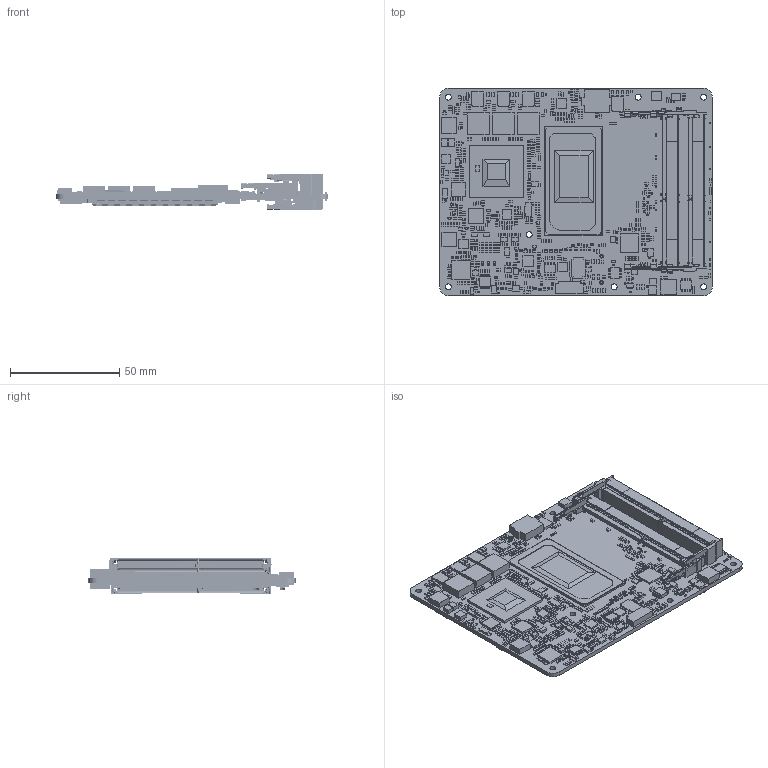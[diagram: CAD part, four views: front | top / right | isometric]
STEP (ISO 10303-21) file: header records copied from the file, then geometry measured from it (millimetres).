
FILE_DESCRIPTION((''),'2;1');
FILE_NAME('0-ESM-TGH_ASM','2022-06-16T14:17:55',('kobe_chang'),(''),'CREO PARAMETRIC BY PTC INC, 2018300','CREO PARAMETRIC BY PTC INC, 2018300','');
FILE_SCHEMA(('CONFIG_CONTROL_DESIGN','GEOMETRIC_VALIDATION_PROPERTIES_MIM'));
Products named in the file (82): ESM-TGH-PCB; E16712B0201H; E16A37D0414H; E16A37D041DH; E16A37D0404H; K10500_REV01_TGL-H_8C-GT1; K44490_R01; E1212201510H; E1212204715H; E121220102LH; E123133272AH; E1231302767H; E118X633760H; E118XX33780H; E14S4751702H; E1315342410H; E1315331310H; E1315450810H; 1; 2; E1213103004H; E1213101215H; E0030100003; E0030100001; A-R0603; A-R0402; E0030100000; E1304100040H; E121220471F000H; E1213103000H; E121220102QH; E1212201529H; E1212201520H; E1212206811H; E118X633782H; E1301075140R; E1301034040H; E1301581741H; E1300051640H; E1305032340H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
Assembly tree (1458 placements, depth 3):
  0-ESM-TGH_ASM
    ESM-TGH-PCB
    E16712B0201H  x2
    E16A37D0414H
    E16A37D041DH
    E16A37D0404H
    K10500_REV01_TGL-H_8C-GT1
    K44490_R01
    E1212201510H  x3
    E1212204715H
    E121220102LH
    ESM-TGH_A01-M_20211001_ASM
      E123133272AH
      E1231302767H  x2
      E118X633760H  x2
      E118XX33780H  x5
      E14S4751702H
      E1315342410H  x2
      E1315331310H
      E1315450810H  x5
      1
      2
      E1213103004H  x9
      E1213101215H  x2
      E0030100003
      E0030100001  x31
      A-R0603  x23
      A-R0402  x585
      E0030100000  x10
      E1304100040H
      E121220471F000H
      E1212201510H  x3
      E1213103000H  x4
      E121220102QH
      E1212201529H
      E121220102LH
      E1212201520H
      E1212204715H
      E1212206811H
      E118X633782H  x2
      E1301075140R
      E1301034040H  x3
      E1301581741H  x2
      E1300051640H  x16
      E1305032340H
      A-C0805  x36
      A-C0402  x377
      A-C0603  x174
      E11216105A1H-M1  x69
      E1301005440H  x2
      E1315013812H  x3
      E14S3233000H
      E1600020201R
      E1060700002H  x17
      E14S5910702H
      E14S9068200H
      E14S5F00801H  x4
      E14S5F15702H
      E1315065810H  x2
      E14S5920801H
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Bounding box: 125 x 95 x 16.4 mm (x, y, z)
Volume: 41085.5 mm3; surface area: 56840.3 mm2
Topology: 1459 solids, 1459 shells, 19636 faces, 82252 edges, 87200 vertices
Faces by surface type: plane 18424, cylinder 1093, bspline 84, cone 28, torus 3, extrusion 2, sphere 2
Entity records: 594540 total; most frequent: DIRECTION 91246, CARTESIAN_POINT 85865, PRESENTATION_STYLE_ASSIGNMENT 40167, STYLED_ITEM 40167, ORIENTED_EDGE 40144, VECTOR 38954, LINE 38952, CURVE_STYLE 37876
